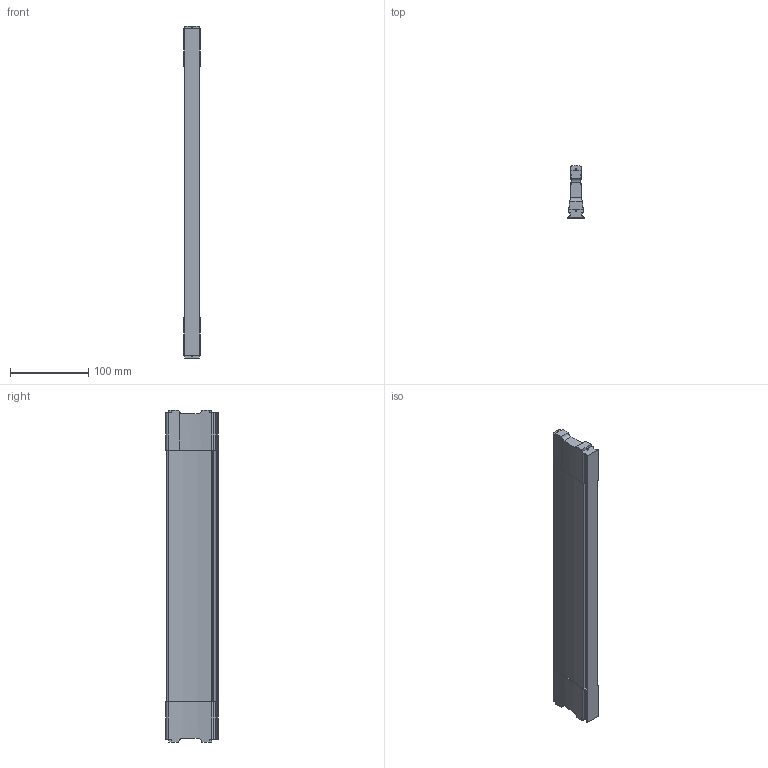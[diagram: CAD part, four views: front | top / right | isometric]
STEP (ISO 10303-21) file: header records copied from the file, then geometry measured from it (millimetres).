
FILE_DESCRIPTION (( 'STEP AP214' ), '1' );
FILE_NAME ('Traverse DWD XP NL450 Mass X418,4_montiert.step', '2010-09-21T13:16:48', ( 'grass' ), ( '' ), 'SwSTEP 2.0', 'SolidWorks 2010', '' );
FILE_SCHEMA (( 'AUTOMOTIVE_DESIGN' ));
Length unit declared in the file: millimetre
Products named in the file (1): Traverse DWD XP NL450 Mass X418,4_montiert
Bounding box: 21.4 x 67.5 x 423 mm (x, y, z)
Volume: 354624.1 mm3; surface area: 74045.2 mm2
Topology: 1 solids, 1 shells, 125 faces, 369 edges, 246 vertices
Faces by surface type: cylinder 68, plane 57
Entity records: 4377 total; most frequent: CARTESIAN_POINT 879, DIRECTION 753, ORIENTED_EDGE 738, EDGE_CURVE 369, AXIS2_PLACEMENT_3D 268, VERTEX_POINT 246, LINE 217, VECTOR 217
